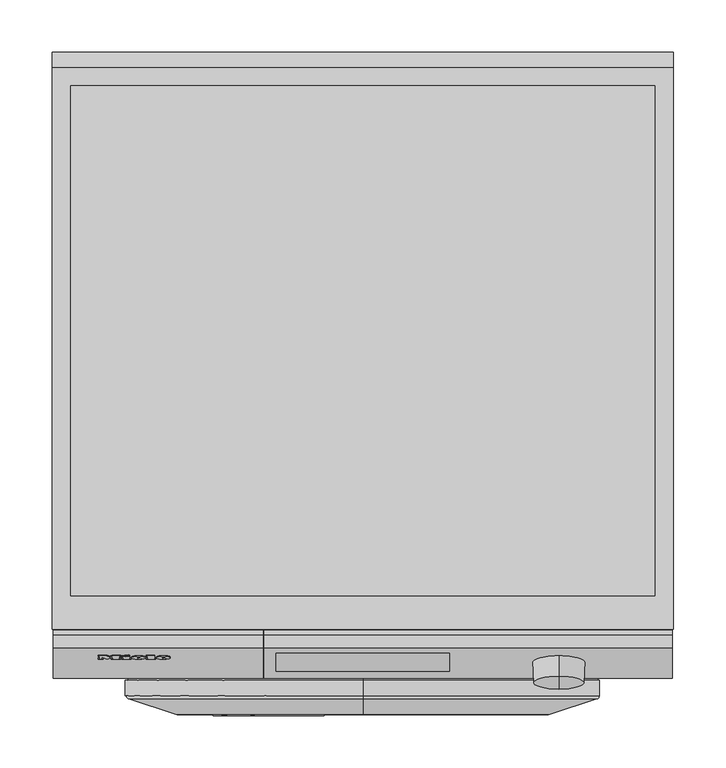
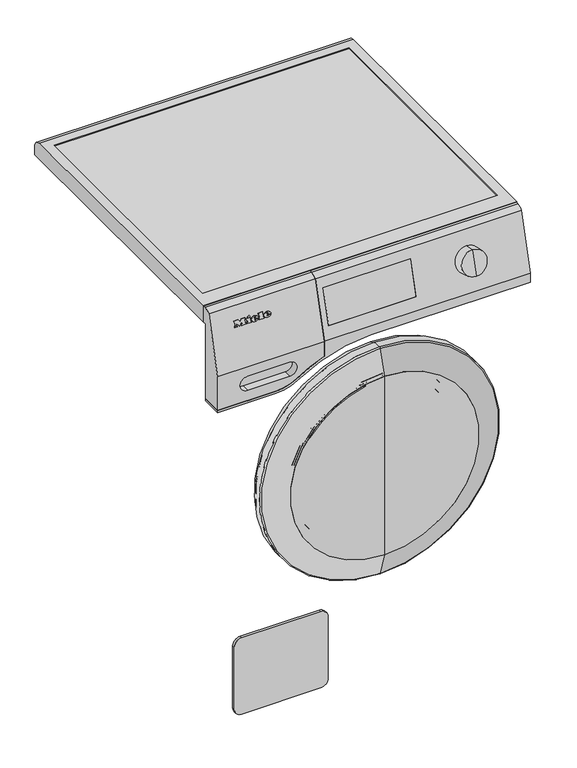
"""IFC4 building model written with IfcOpenShell, lengths in millimetres: proxy geometry, 12901940_F_WCA132WCS_LW : 11CA1321_F_12901940_WCA132WCS_LW."""

from ifc_helpers import new_model, si_unit, point, frame, frame_2d, origin, place, context, project, spatial, polyline, circle_curve, ellipse_curve, trimmed, segment, composite_curve, outline, extrude, source, transform, mapped, element, save
from ifc_brep_helpers import plane_surface, cylinder_surface, revolved_surface, extruded_surface, advanced_brep


def specialty_equipment_56a88420(model_context):
    return source(origin(), model_context, "Body", "SolidModel", [
        extrude(outline(polyline([(0.0, 0.0), (0.0, -1.8582), (-7.9458, -1.8582), (-11.286, 2.4168), (-14.6148, -1.8582), (-21.5574, -1.8582), (-21.5574, 0.0), (-20.1096, 0.0), (-20.1096, 7.6266), (-21.5574, 7.6266), (-21.5574, 9.5418), (-12.4602, 9.5418), (-12.4602, 7.6266), (-13.8624, 7.6266), (-13.8624, 2.6015777), (-8.7438, 9.5418), (-3.648, 2.7988753), (-3.648, 7.6266), (-5.016, 7.6266), (-5.016, 9.5418), (0.0, 9.5418), (0.0, 7.6266), (-1.3794, 7.6266), (-1.3794, 0.0), (0.0, 0.0)])), frame((-254.0, -578.2806922, 817.2814843), z_axis=(0.0, -0.9659258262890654, 0.2588190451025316), x_axis=(-1.0, 0.0, 0.0)), (0.0, 0.0, 1.0), 1.0),
        extrude(outline(polyline([(0.0, 0.0), (-0.0155448, -4.2740444), (-2.0506341, -4.2637237), (-2.0399312, 0.0), (0.0, 0.0)])), frame((-228.464, -577.9348294, 818.5722618), z_axis=(0.0, -0.9659258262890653, 0.2588190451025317), x_axis=(-0.4247202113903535, 0.23431526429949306, 0.8744764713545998)), (0.0, 0.0, 1.0), 1.0),
        extrude(outline(polyline([(-0.7030818, 3.4401063), (-3.9616202, -3.5057256), (-10.0405132, -0.6538993), (-10.6021632, -1.8511006), (-12.336041, -1.0376764), (-8.5158526, 7.1053568), (-6.7819748, 6.2919326), (-7.3581502, 5.0637692), (-3.1266627, 3.0786269), (-2.5504873, 4.3067903), (-0.7030818, 3.4401063)])), frame((-228.464, -577.9348294, 818.5722618), z_axis=(0.0, -0.9659258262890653, 0.2588190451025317), x_axis=(-0.4247202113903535, 0.23431526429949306, 0.8744764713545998)), (0.0, 0.0, 1.0), 1.0),
        extrude(outline(polyline([(0.0, 0.0), (0.0, -1.8582), (-7.8432, -1.8582), (-7.8432, 7.6266), (-9.2454, 7.6266), (-9.2454, 9.5418), (0.0, 9.5418), (0.0, 7.6266), (-1.368, 7.6266), (-1.368, 0.0), (0.0, 0.0)])), frame((-207.7388, -578.2806922, 817.2814843), z_axis=(0.0, -0.9659258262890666, 0.2588190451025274), x_axis=(-1.0, 0.0, 0.0)), (0.0, 0.0, 1.0), 1.0),
        advanced_brep(
        [(-216.0038, -581.029736, 810.8856165), (-216.0038, -580.7317318, 811.9977835), (-208.3772, -580.7317318, 811.9977835), (-221.6468, -580.7317318, 811.9977835), (-218.5118, -581.7290133, 808.2758781), (-208.571, -581.029736, 810.8856165), (-212.0138, -581.029736, 810.8856165), (-214.727, -581.3601962, 809.6523224), (-216.0038, -580.354063, 813.4072624), (-216.0038, -580.0324545, 814.6075219), (-214.0544, -580.0324545, 814.6075219), (-214.0544, -580.354063, 813.4072624), (-216.0038, -580.0638102, 810.6267974), (-214.727, -580.3942704, 809.3935033), (-212.0138, -580.0638102, 810.6267974), (-208.571, -580.0638102, 810.6267974), (-218.5118, -580.7630875, 808.017059), (-221.6468, -579.765806, 811.7389644), (-208.3772, -579.765806, 811.7389644), (-216.0038, -579.765806, 811.7389644), (-216.0038, -579.3881372, 813.1484434), (-214.0544, -579.3881372, 813.1484434), (-214.0544, -579.0665287, 814.3487028), (-216.0038, -579.0665287, 814.3487028)],
        [
            (0, 1),
            (1, 2),
            (2, 3, ellipse_curve(frame((-215.012, -580.7317318, 811.9977835), z_axis=(0.0, -0.9659258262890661, 0.2588190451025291), x_axis=(-1.0, 0.0, 0.0)), 6.6348, 5.4834)),
            (3, 4, circle_curve(frame((-217.2349378, -580.6314135, 812.3721763), z_axis=(0.0, -0.9659258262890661, 0.2588190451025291), x_axis=(0.0, -0.2588190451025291, -0.9659258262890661)), 4.4288556)),
            (4, 5, circle_curve(frame((-215.1448192, -579.8524717, 815.2792267), z_axis=(0.0, -0.9659258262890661, 0.2588190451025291), x_axis=(0.0, -0.2588190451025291, -0.9659258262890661)), 7.9940516)),
            (5, 6),
            (6, 7, circle_curve(frame((-214.1697412, -580.7553361, 811.909691), z_axis=(0.0, 0.9659258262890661, -0.2588190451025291), x_axis=(0.0, -0.2588190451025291, -0.9659258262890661)), 2.4025208)),
            (7, 0, circle_curve(frame((-214.727, -581.029736, 810.8856165), z_axis=(0.0, 0.9659258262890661, -0.2588190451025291), x_axis=(0.0, -0.2588190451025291, -0.9659258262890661)), 1.2768)),
            (8, 9),
            (9, 10, circle_curve(frame((-215.0291, -580.0324545, 814.6075219), z_axis=(0.0, 0.9659258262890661, -0.2588190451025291), x_axis=(0.0, -0.2588190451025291, -0.9659258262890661)), 0.9747)),
            (10, 11),
            (11, 8),
            (12, 13, circle_curve(frame((-214.727, -580.0638102, 810.6267974), z_axis=(0.0, -0.9659258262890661, 0.2588190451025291), x_axis=(0.0, -0.2588190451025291, -0.9659258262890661)), 1.2768)),
            (13, 14, circle_curve(frame((-214.1697412, -579.7894103, 811.650872), z_axis=(0.0, -0.9659258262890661, 0.2588190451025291), x_axis=(0.0, -0.2588190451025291, -0.9659258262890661)), 2.4025208)),
            (14, 15),
            (15, 16, circle_curve(frame((-215.1448192, -578.8865459, 815.0204076), z_axis=(0.0, 0.9659258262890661, -0.2588190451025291), x_axis=(0.0, -0.2588190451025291, -0.9659258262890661)), 7.9940516)),
            (16, 17, circle_curve(frame((-217.2349378, -579.6654877, 812.1133573), z_axis=(0.0, 0.9659258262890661, -0.2588190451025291), x_axis=(0.0, -0.2588190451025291, -0.9659258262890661)), 4.4288556)),
            (17, 18, ellipse_curve(frame((-215.012, -579.765806, 811.7389644), z_axis=(0.0, 0.9659258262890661, -0.2588190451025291), x_axis=(-1.0, 0.0, 0.0)), 6.6348, 5.4834)),
            (18, 19),
            (19, 12),
            (20, 21),
            (21, 22),
            (22, 23, circle_curve(frame((-215.0291, -579.0665287, 814.3487028), z_axis=(0.0, -0.9659258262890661, 0.2588190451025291), x_axis=(0.0, -0.2588190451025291, -0.9659258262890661)), 0.9747)),
            (23, 20),
            (0, 12),
            (19, 1),
            (18, 2),
            (5, 15),
            (14, 6),
            (17, 3),
            (13, 7),
            (16, 4),
            (8, 20),
            (23, 9),
            (22, 10),
            (21, 11),
        ],
        [
            plane_surface(frame((-216.0038, -580.7317318, 811.9977835), z_axis=(0.0, -0.9659258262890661, 0.2588190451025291), x_axis=(0.0, 0.2588190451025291, 0.9659258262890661))),
            plane_surface(frame((-216.0038, -579.765806, 811.7389644), z_axis=(0.0, 0.9659258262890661, -0.2588190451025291), x_axis=(0.0, -0.2588190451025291, -0.9659258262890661))),
            plane_surface(frame((-216.0038, -581.029736, 810.8856165), z_axis=(1.0, 0.0, 0.0), x_axis=(0.0, 0.9659258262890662, -0.25881904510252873))),
            plane_surface(frame((-216.0038, -580.7317318, 811.9977835), z_axis=(0.0, -0.25881904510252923, -0.9659258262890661), x_axis=(0.0, 0.9659258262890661, -0.25881904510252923))),
            plane_surface(frame((-208.571, -581.029736, 810.8856165), z_axis=(0.0, 0.25881904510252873, 0.9659258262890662), x_axis=(0.0, 0.9659258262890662, -0.25881904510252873))),
            extruded_surface(trimmed(ellipse_curve(frame((-215.012, -578.7998801, 811.4801454), z_axis=(0.0, -0.9659258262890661, 0.2588190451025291), x_axis=(-1.0, 0.0, 0.0)), 6.6348, 5.4834), [point((-208.3772, -578.7998801, 811.4801454))], [point((-221.6468, -578.7998801, 811.4801454))], True, "CARTESIAN"), (0.0, -0.965925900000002, 0.2588190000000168), 1.0000000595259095),
            revolved_surface(polyline([(-214.1697412, -580.4112283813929, 809.3302150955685), (-214.1697412, -581.3771542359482, 809.589034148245)]), (-214.1697412, -579.7894103, 811.650872), (0.0, 0.9659258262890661, -0.2588190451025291)),
            revolved_surface(polyline([(-214.727, -580.3942703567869, 809.393503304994), (-214.727, -581.3601962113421, 809.6523223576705)]), (-214.727, -580.0638102, 810.6267974), (0.0, 0.9659258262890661, -0.2588190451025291)),
            cylinder_surface(frame((-217.2349378, -579.6654877, 812.1133573), z_axis=(0.0, -0.9659258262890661, 0.2588190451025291), x_axis=(0.0, -0.2588190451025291, -0.9659258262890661)), 4.4288556),
            cylinder_surface(frame((-215.1448192, -578.8865459, 815.0204076), z_axis=(0.0, -0.9659258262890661, 0.2588190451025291), x_axis=(0.0, -0.2588190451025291, -0.9659258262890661)), 7.9940516),
            plane_surface(frame((-216.0038, -580.354063, 813.4072624), z_axis=(1.0, 0.0, 0.0), x_axis=(0.0, 0.9659258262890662, -0.25881904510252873))),
            revolved_surface(polyline([(-215.0291, -579.3187996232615, 813.407214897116), (-215.0291, -580.2847254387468, 813.6660339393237)]), (-215.0291, -579.0665287, 814.3487028), (0.0, 0.9659258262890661, -0.2588190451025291)),
            plane_surface(frame((-214.0544, -580.0324545, 814.6075219), z_axis=(-1.0, 0.0, 0.0), x_axis=(0.0, 0.9659258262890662, -0.25881904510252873))),
            plane_surface(frame((-214.0544, -580.354063, 813.4072624), z_axis=(0.0, 0.25881904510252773, 0.9659258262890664), x_axis=(0.0, 0.9659258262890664, -0.25881904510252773))),
        ],
        [
            (0, [[1, 2, 3, 4, 5, 6, 7, 8], [9, 10, 11, 12]]),
            (1, [[13, 14, 15, 16, 17, 18, 19, 20], [21, 22, 23, 24]]),
            (2, [[-1, 25, -20, 26]]),
            (3, [[-2, -26, -19, 27]]),
            (4, [[-6, 28, -15, 29]]),
            (5, [[-3, -27, -18, 30]]),
            (6, [[-7, -29, -14, 31]]),
            (7, [[-8, -31, -13, -25]]),
            (8, [[-4, -30, -17, 32]]),
            (9, [[-5, -32, -16, -28]]),
            (10, [[-9, 33, -24, 34]]),
            (11, [[-10, -34, -23, 35]]),
            (12, [[-11, -35, -22, 36]]),
            (13, [[-12, -36, -21, -33]]),
        ],
    ),
        advanced_brep(
        [(-192.212, -581.029736, 810.8856165), (-192.212, -580.7317318, 811.9977835), (-184.5854, -580.7317318, 811.9977835), (-197.855, -580.7317318, 811.9977835), (-194.72, -581.7290133, 808.2758781), (-184.7792, -581.029736, 810.8856165), (-188.222, -581.029736, 810.8856165), (-190.9352, -581.3601962, 809.6523224), (-192.212, -580.354063, 813.4072624), (-192.212, -580.0324545, 814.6075219), (-190.2626, -580.0324545, 814.6075219), (-190.2626, -580.354063, 813.4072624), (-192.212, -580.0638102, 810.6267974), (-190.9352, -580.3942704, 809.3935033), (-188.222, -580.0638102, 810.6267974), (-184.7792, -580.0638102, 810.6267974), (-194.72, -580.7630875, 808.017059), (-197.855, -579.765806, 811.7389644), (-184.5854, -579.765806, 811.7389644), (-192.212, -579.765806, 811.7389644), (-192.212, -579.3881372, 813.1484434), (-190.2626, -579.3881372, 813.1484434), (-190.2626, -579.0665287, 814.3487028), (-192.212, -579.0665287, 814.3487028)],
        [
            (0, 1),
            (1, 2),
            (2, 3, ellipse_curve(frame((-191.2202, -580.7317318, 811.9977835), z_axis=(0.0, -0.965925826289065, 0.25881904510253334), x_axis=(-1.0, 0.0, 0.0)), 6.6348, 5.4834)),
            (3, 4, circle_curve(frame((-193.4431378, -580.6314135, 812.3721763), z_axis=(0.0, -0.9659258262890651, 0.25881904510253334), x_axis=(0.0, -0.2588190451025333, -0.9659258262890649)), 4.4288556)),
            (4, 5, circle_curve(frame((-191.3530192, -579.8524717, 815.2792267), z_axis=(0.0, -0.9659258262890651, 0.25881904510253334), x_axis=(0.0, -0.2588190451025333, -0.9659258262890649)), 7.9940516)),
            (5, 6),
            (6, 7, circle_curve(frame((-190.3779412, -580.7553361, 811.909691), z_axis=(0.0, 0.9659258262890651, -0.25881904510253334), x_axis=(0.0, -0.2588190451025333, -0.9659258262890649)), 2.4025208)),
            (7, 0, circle_curve(frame((-190.9352, -581.029736, 810.8856165), z_axis=(0.0, 0.9659258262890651, -0.25881904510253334), x_axis=(0.0, -0.2588190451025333, -0.9659258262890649)), 1.2768)),
            (8, 9),
            (9, 10, circle_curve(frame((-191.2373, -580.0324545, 814.6075219), z_axis=(0.0, 0.9659258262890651, -0.25881904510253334), x_axis=(0.0, -0.2588190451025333, -0.9659258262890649)), 0.9747)),
            (10, 11),
            (11, 8),
            (12, 13, circle_curve(frame((-190.9352, -580.0638102, 810.6267974), z_axis=(0.0, -0.9659258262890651, 0.25881904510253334), x_axis=(0.0, -0.2588190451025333, -0.9659258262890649)), 1.2768)),
            (13, 14, circle_curve(frame((-190.3779412, -579.7894103, 811.650872), z_axis=(0.0, -0.9659258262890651, 0.25881904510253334), x_axis=(0.0, -0.2588190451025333, -0.9659258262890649)), 2.4025208)),
            (14, 15),
            (15, 16, circle_curve(frame((-191.3530192, -578.8865459, 815.0204076), z_axis=(0.0, 0.9659258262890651, -0.25881904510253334), x_axis=(0.0, -0.2588190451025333, -0.9659258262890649)), 7.9940516)),
            (16, 17, circle_curve(frame((-193.4431378, -579.6654877, 812.1133573), z_axis=(0.0, 0.9659258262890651, -0.25881904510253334), x_axis=(0.0, -0.2588190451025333, -0.9659258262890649)), 4.4288556)),
            (17, 18, ellipse_curve(frame((-191.2202, -579.765806, 811.7389644), z_axis=(0.0, 0.965925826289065, -0.25881904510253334), x_axis=(-1.0, 0.0, 0.0)), 6.6348, 5.4834)),
            (18, 19),
            (19, 12),
            (20, 21),
            (21, 22),
            (22, 23, circle_curve(frame((-191.2373, -579.0665287, 814.3487028), z_axis=(0.0, -0.9659258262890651, 0.25881904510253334), x_axis=(0.0, -0.2588190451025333, -0.9659258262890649)), 0.9747)),
            (23, 20),
            (0, 12),
            (19, 1),
            (18, 2),
            (5, 15),
            (14, 6),
            (17, 3),
            (13, 7),
            (16, 4),
            (8, 20),
            (23, 9),
            (22, 10),
            (21, 11),
        ],
        [
            plane_surface(frame((-192.212, -580.7317318, 811.9977835), z_axis=(0.0, -0.965925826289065, 0.25881904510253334), x_axis=(0.0, 0.25881904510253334, 0.965925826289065))),
            plane_surface(frame((-192.212, -579.765806, 811.7389644), z_axis=(0.0, 0.965925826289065, -0.25881904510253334), x_axis=(0.0, -0.25881904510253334, -0.965925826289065))),
            plane_surface(frame((-192.212, -581.029736, 810.8856165), z_axis=(1.0, 0.0, 0.0), x_axis=(0.0, 0.9659258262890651, -0.2588190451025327))),
            plane_surface(frame((-192.212, -580.7317318, 811.9977835), z_axis=(0.0, -0.25881904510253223, -0.9659258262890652), x_axis=(0.0, 0.9659258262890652, -0.25881904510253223))),
            plane_surface(frame((-184.7792, -581.029736, 810.8856165), z_axis=(0.0, 0.2588190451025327, 0.9659258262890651), x_axis=(0.0, 0.9659258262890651, -0.2588190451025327))),
            extruded_surface(trimmed(ellipse_curve(frame((-191.2202, -578.7998801, 811.4801454), z_axis=(0.0, -0.965925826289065, 0.25881904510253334), x_axis=(-1.0, 0.0, 0.0)), 6.6348, 5.4834), [point((-184.5854, -578.7998801, 811.4801454))], [point((-197.855, -578.7998801, 811.4801454))], True, "CARTESIAN"), (0.0, -0.965925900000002, 0.2588190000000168), 1.0000000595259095),
            revolved_surface(polyline([(-190.3779412, -580.4112283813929, 809.3302150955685), (-190.3779412, -581.3771542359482, 809.589034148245)]), (-190.3779412, -579.7894103, 811.650872), (0.0, 0.9659258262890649, -0.2588190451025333)),
            revolved_surface(polyline([(-190.9352, -580.3942703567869, 809.393503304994), (-190.9352, -581.3601962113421, 809.6523223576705)]), (-190.9352, -580.0638102, 810.6267974), (0.0, 0.9659258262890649, -0.2588190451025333)),
            cylinder_surface(frame((-193.4431378, -579.6654877, 812.1133573), z_axis=(0.0, -0.9659258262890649, 0.2588190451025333), x_axis=(0.0, -0.2588190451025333, -0.9659258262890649)), 4.4288556),
            cylinder_surface(frame((-191.3530192, -578.8865459, 815.0204076), z_axis=(0.0, -0.9659258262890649, 0.2588190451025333), x_axis=(0.0, -0.2588190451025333, -0.9659258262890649)), 7.9940516),
            plane_surface(frame((-192.212, -580.354063, 813.4072624), z_axis=(1.0, 0.0, 0.0), x_axis=(0.0, 0.9659258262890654, -0.25881904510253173))),
            revolved_surface(polyline([(-191.2373, -579.3187996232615, 813.407214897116), (-191.2373, -580.2847254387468, 813.6660339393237)]), (-191.2373, -579.0665287, 814.3487028), (0.0, 0.9659258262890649, -0.2588190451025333)),
            plane_surface(frame((-190.2626, -580.0324545, 814.6075219), z_axis=(-1.0, 0.0, 0.0), x_axis=(0.0, 0.9659258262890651, -0.2588190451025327))),
            plane_surface(frame((-190.2626, -580.354063, 813.4072624), z_axis=(0.0, 0.2588190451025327, 0.9659258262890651), x_axis=(0.0, 0.9659258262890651, -0.2588190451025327))),
        ],
        [
            (0, [[1, 2, 3, 4, 5, 6, 7, 8], [9, 10, 11, 12]]),
            (1, [[13, 14, 15, 16, 17, 18, 19, 20], [21, 22, 23, 24]]),
            (2, [[-1, 25, -20, 26]]),
            (3, [[-2, -26, -19, 27]]),
            (4, [[-6, 28, -15, 29]]),
            (5, [[-3, -27, -18, 30]]),
            (6, [[-7, -29, -14, 31]]),
            (7, [[-8, -31, -13, -25]]),
            (8, [[-4, -30, -17, 32]]),
            (9, [[-5, -32, -16, -28]]),
            (10, [[-9, 33, -24, 34]]),
            (11, [[-10, -34, -23, 35]]),
            (12, [[-11, -35, -22, 36]]),
            (13, [[-12, -36, -21, -33]]),
        ],
    ),
        extrude(outline(composite_curve([segment(trimmed(circle_curve(frame_2d((475.0, 0.0)), 179.0077488), [point((650.0572384, -37.3996979))], [point((581.8669772, -143.6078804))], False, "CARTESIAN"), True, "CONTINUOUS"), segment(polyline([(581.8669772, -143.6078804), (580.6729844, -142.0033925)]), True, "CONTINUOUS"), segment(trimmed(circle_curve(frame_2d((475.0, 0.0)), 177.0077488), [point((580.6729844, -142.0033925))], [point((648.1013763, -36.9818423))], True, "CARTESIAN"), True, "CONTINUOUS"), segment(polyline([(648.1013763, -36.9818423), (650.0572384, -37.3996979)]), True, "CONTINUOUS")], self_intersect=False)), frame((0.0, -636.0, 0.0), z_axis=(0.0, 1.0, 0.0), x_axis=(0.0, 0.0, 1.0)), (0.0, 0.0, 1.0), 1.0),
        advanced_brep(
        [(0.0, -635.0, 296.0), (0.0, -635.0, 654.0), (0.0, -630.9005671, 650.4364173), (0.0, -630.9005671, 299.5635827), (0.0, -635.0, 475.0), (0.0, -589.0, 326.0), (0.0, -589.0, 624.0), (0.0, -589.0, 475.0), (0.0, -592.0, 326.0), (0.0, -592.0, 624.0), (0.0, -592.0, 313.0), (0.0, -592.0, 637.0), (0.0, -610.8709778, 313.0), (0.0, -610.8709778, 637.0), (0.0, -628.93239, 297.2994539), (0.0, -628.93239, 652.7005461)],
        [
            (0, 1, circle_curve(frame((0.0, -635.0, 475.0), z_axis=(0.0, 1.0, 0.0), x_axis=(0.0, 0.0, 1.0)), 179.0)),
            (1, 2),
            (2, 3, circle_curve(frame((0.0, -630.9005671, 475.0), z_axis=(0.0, -1.0, 0.0), x_axis=(0.0, 0.0, 1.0)), 175.4364173)),
            (3, 0),
            (1, 0, circle_curve(frame((0.0, -635.0, 475.0), z_axis=(0.0, 1.0, 0.0), x_axis=(0.0, 0.0, 1.0)), 179.0)),
            (3, 2, circle_curve(frame((0.0, -630.9005671, 475.0), z_axis=(0.0, -1.0, 0.0), x_axis=(0.0, 0.0, 1.0)), 175.4364173)),
            (4, 1),
            (0, 4),
            (5, 6, circle_curve(frame((0.0, -589.0, 475.0), z_axis=(0.0, 1.0, 0.0), x_axis=(0.0, 0.0, 1.0)), 149.0)),
            (6, 7),
            (7, 5),
            (6, 5, circle_curve(frame((0.0, -589.0, 475.0), z_axis=(0.0, 1.0, 0.0), x_axis=(0.0, 0.0, 1.0)), 149.0)),
            (8, 9, circle_curve(frame((0.0, -592.0, 475.0), z_axis=(0.0, 1.0, 0.0), x_axis=(0.0, 0.0, 1.0)), 149.0)),
            (9, 6),
            (5, 8),
            (9, 8, circle_curve(frame((0.0, -592.0, 475.0), z_axis=(0.0, 1.0, 0.0), x_axis=(0.0, 0.0, 1.0)), 149.0)),
            (10, 11, circle_curve(frame((0.0, -592.0, 475.0), z_axis=(0.0, 1.0, 0.0), x_axis=(0.0, 0.0, 1.0)), 162.0)),
            (11, 9),
            (8, 10),
            (11, 10, circle_curve(frame((0.0, -592.0, 475.0), z_axis=(0.0, 1.0, 0.0), x_axis=(0.0, 0.0, 1.0)), 162.0)),
            (12, 13, circle_curve(frame((0.0, -610.8709778, 475.0), z_axis=(0.0, 1.0, 0.0), x_axis=(0.0, 0.0, 1.0)), 162.0)),
            (13, 11),
            (10, 12),
            (13, 12, circle_curve(frame((0.0, -610.8709778, 475.0), z_axis=(0.0, 1.0, 0.0), x_axis=(0.0, 0.0, 1.0)), 162.0)),
            (14, 15, circle_curve(frame((0.0, -628.93239, 475.0), z_axis=(0.0, 1.0, 0.0), x_axis=(0.0, 0.0, 1.0)), 177.7005461)),
            (15, 13),
            (12, 14),
            (15, 14, circle_curve(frame((0.0, -628.93239, 475.0), z_axis=(0.0, 1.0, 0.0), x_axis=(0.0, 0.0, 1.0)), 177.7005461)),
            (2, 15),
            (14, 3),
        ],
        [
            revolved_surface(polyline([(0.0, -630.9005671, 650.4364173), (0.0, -635.0, 654.0)]), (0.0, -2342.7556811, 475.0), (0.0, -1.0, 0.0)),
            plane_surface(frame((0.0, -635.0, 475.0), z_axis=(0.0, -1.0, 0.0), x_axis=(0.0, 0.0, 1.0))),
            plane_surface(frame((0.0, -589.0, 475.0), z_axis=(0.0, 1.0, 0.0), x_axis=(0.0, 0.0, 1.0))),
            cylinder_surface(frame((0.0, -2342.7556811, 475.0), z_axis=(0.0, -1.0, 0.0), x_axis=(0.0, 0.0, 1.0)), 149.0),
            plane_surface(frame((0.0, -592.0, 475.0), z_axis=(0.0, 1.0, 0.0), x_axis=(0.0, 0.0, 1.0))),
            cylinder_surface(frame((0.0, -2342.7556811, 475.0), z_axis=(0.0, -1.0, 0.0), x_axis=(0.0, 0.0, 1.0)), 162.0),
            revolved_surface(polyline([(0.0, -610.8709778, 637.0), (0.0, -628.93239, 652.7005461)]), (0.0, -2342.7556811, 475.0), (0.0, -1.0, 0.0)),
            revolved_surface(polyline([(0.0, -628.93239, 652.7005461), (0.0, -630.9005671, 650.4364173)]), (0.0, -2342.7556811, 475.0), (0.0, -1.0, 0.0)),
        ],
        [
            (0, [[1, 2, 3, 4]]),
            (0, [[5, -4, 6, -2]]),
            (1, [[7, -1, 8]]),
            (1, [[-8, -5, -7]]),
            (2, [[9, 10, 11]]),
            (2, [[12, -11, -10]]),
            (3, [[13, 14, -9, 15]]),
            (3, [[16, -15, -12, -14]]),
            (4, [[17, 18, -13, 19]]),
            (4, [[20, -19, -16, -18]]),
            (5, [[21, 22, -17, 23]]),
            (5, [[24, -23, -20, -22]]),
            (6, [[25, 26, -21, 27]]),
            (6, [[28, -27, -24, -26]]),
            (7, [[-3, 29, -25, 30]]),
            (7, [[-6, -30, -28, -29]]),
        ],
    ),
        advanced_brep(
        [(0.0, -589.0, 254.0), (0.0, -589.0, 696.0), (0.0, -589.0, 624.0), (0.0, -589.0, 326.0), (0.0, -602.0, 248.0), (0.0, -602.0, 702.0), (0.0, -602.0, 313.0), (0.0, -602.0, 637.0), (0.0, -592.0, 313.0), (0.0, -592.0, 637.0), (0.0, -592.0, 326.0), (0.0, -592.0, 624.0)],
        [
            (0, 1, circle_curve(frame((0.0, -589.0, 475.0), z_axis=(0.0, 1.0, 0.0), x_axis=(0.0, 0.0, 1.0)), 221.0)),
            (1, 2),
            (2, 3, circle_curve(frame((0.0, -589.0, 475.0), z_axis=(0.0, -1.0, 0.0), x_axis=(0.0, 0.0, 1.0)), 149.0)),
            (3, 0),
            (1, 0, circle_curve(frame((0.0, -589.0, 475.0), z_axis=(0.0, 1.0, 0.0), x_axis=(0.0, 0.0, 1.0)), 221.0)),
            (3, 2, circle_curve(frame((0.0, -589.0, 475.0), z_axis=(0.0, -1.0, 0.0), x_axis=(0.0, 0.0, 1.0)), 149.0)),
            (4, 5, circle_curve(frame((0.0, -602.0, 475.0), z_axis=(0.0, 1.0, 0.0), x_axis=(0.0, 0.0, 1.0)), 227.0)),
            (5, 1),
            (0, 4),
            (5, 4, circle_curve(frame((0.0, -602.0, 475.0), z_axis=(0.0, 1.0, 0.0), x_axis=(0.0, 0.0, 1.0)), 227.0)),
            (6, 7, circle_curve(frame((0.0, -602.0, 475.0), z_axis=(0.0, 1.0, 0.0), x_axis=(0.0, 0.0, 1.0)), 162.0)),
            (7, 5),
            (4, 6),
            (7, 6, circle_curve(frame((0.0, -602.0, 475.0), z_axis=(0.0, 1.0, 0.0), x_axis=(0.0, 0.0, 1.0)), 162.0)),
            (8, 9, circle_curve(frame((0.0, -592.0, 475.0), z_axis=(0.0, 1.0, 0.0), x_axis=(0.0, 0.0, 1.0)), 162.0)),
            (9, 7),
            (6, 8),
            (9, 8, circle_curve(frame((0.0, -592.0, 475.0), z_axis=(0.0, 1.0, 0.0), x_axis=(0.0, 0.0, 1.0)), 162.0)),
            (10, 11, circle_curve(frame((0.0, -592.0, 475.0), z_axis=(0.0, 1.0, 0.0), x_axis=(0.0, 0.0, 1.0)), 149.0)),
            (11, 9),
            (8, 10),
            (11, 10, circle_curve(frame((0.0, -592.0, 475.0), z_axis=(0.0, 1.0, 0.0), x_axis=(0.0, 0.0, 1.0)), 149.0)),
            (2, 11),
            (10, 3),
        ],
        [
            plane_surface(frame((0.0, -589.0, 475.0), z_axis=(0.0, 1.0, 0.0), x_axis=(0.0, 0.0, 1.0))),
            revolved_surface(polyline([(0.0, -589.0, 696.0), (0.0, -602.0, 702.0)]), (0.0, -2342.7556811, 475.0), (0.0, -1.0, 0.0)),
            plane_surface(frame((0.0, -602.0, 475.0), z_axis=(0.0, -1.0, 0.0), x_axis=(0.0, 0.0, 1.0))),
            revolved_surface(polyline([(0.0, -602.0, 637.0), (0.0, -592.0, 637.0)]), (0.0, -2342.7556811, 475.0), (0.0, -1.0, 0.0)),
            plane_surface(frame((0.0, -592.0, 475.0), z_axis=(0.0, -1.0, 0.0), x_axis=(0.0, 0.0, 1.0))),
            revolved_surface(polyline([(0.0, -592.0, 624.0), (0.0, -589.0, 624.0)]), (0.0, -2342.7556811, 475.0), (0.0, -1.0, 0.0)),
        ],
        [
            (0, [[1, 2, 3, 4]]),
            (0, [[5, -4, 6, -2]]),
            (1, [[7, 8, -1, 9]]),
            (1, [[10, -9, -5, -8]]),
            (2, [[11, 12, -7, 13]]),
            (2, [[14, -13, -10, -12]]),
            (3, [[15, 16, -11, 17]]),
            (3, [[18, -17, -14, -16]]),
            (4, [[19, 20, -15, 21]]),
            (4, [[22, -21, -18, -20]]),
            (5, [[-3, 23, -19, 24]]),
            (5, [[-6, -24, -22, -23]]),
        ],
    ),
        advanced_brep(
        [(0.0, -628.93239, 297.2994539), (0.0, -628.93239, 652.7005461), (0.0, -626.9642129, 654.9646748), (0.0, -626.9642129, 295.0353252), (0.0, -610.8709778, 313.0), (0.0, -610.8709778, 637.0), (0.0, -602.0, 313.0), (0.0, -602.0, 637.0), (0.0, -609.7493238, 640.0), (0.0, -609.7493238, 310.0), (0.0, -602.0, 310.0), (0.0, -602.0, 640.0)],
        [
            (0, 1, circle_curve(frame((0.0, -628.93239, 475.0), z_axis=(0.0, 1.0, 0.0), x_axis=(0.0, 0.0, 1.0)), 177.7005461)),
            (1, 2),
            (2, 3, circle_curve(frame((0.0, -626.9642129, 475.0), z_axis=(0.0, -1.0, 0.0), x_axis=(0.0, 0.0, 1.0)), 179.9646748)),
            (3, 0),
            (1, 0, circle_curve(frame((0.0, -628.93239, 475.0), z_axis=(0.0, 1.0, 0.0), x_axis=(0.0, 0.0, 1.0)), 177.7005461)),
            (3, 2, circle_curve(frame((0.0, -626.9642129, 475.0), z_axis=(0.0, -1.0, 0.0), x_axis=(0.0, 0.0, 1.0)), 179.9646748)),
            (4, 5, circle_curve(frame((0.0, -610.8709778, 475.0), z_axis=(0.0, 1.0, 0.0), x_axis=(0.0, 0.0, 1.0)), 162.0)),
            (5, 1),
            (0, 4),
            (5, 4, circle_curve(frame((0.0, -610.8709778, 475.0), z_axis=(0.0, 1.0, 0.0), x_axis=(0.0, 0.0, 1.0)), 162.0)),
            (6, 7, circle_curve(frame((0.0, -602.0, 475.0), z_axis=(0.0, 1.0, 0.0), x_axis=(0.0, 0.0, 1.0)), 162.0)),
            (7, 5),
            (4, 6),
            (7, 6, circle_curve(frame((0.0, -602.0, 475.0), z_axis=(0.0, 1.0, 0.0), x_axis=(0.0, 0.0, 1.0)), 162.0)),
            (2, 8),
            (8, 9, circle_curve(frame((0.0, -609.7493238, 475.0), z_axis=(0.0, -1.0, 0.0), x_axis=(0.0, 0.0, 1.0)), 165.0)),
            (9, 3),
            (9, 8, circle_curve(frame((0.0, -609.7493238, 475.0), z_axis=(0.0, -1.0, 0.0), x_axis=(0.0, 0.0, 1.0)), 165.0)),
            (10, 11, circle_curve(frame((0.0, -602.0, 475.0), z_axis=(0.0, 1.0, 0.0), x_axis=(0.0, 0.0, 1.0)), 165.0)),
            (11, 7),
            (6, 10),
            (11, 10, circle_curve(frame((0.0, -602.0, 475.0), z_axis=(0.0, 1.0, 0.0), x_axis=(0.0, 0.0, 1.0)), 165.0)),
            (8, 11),
            (10, 9),
        ],
        [
            revolved_surface(polyline([(0.0, -626.9642129, 654.9646748), (0.0, -628.93239, 652.7005461)]), (0.0, -2342.7556811, 475.0), (0.0, -1.0, 0.0)),
            revolved_surface(polyline([(0.0, -628.93239, 652.7005461), (0.0, -610.8709778, 637.0)]), (0.0, -2342.7556811, 475.0), (0.0, -1.0, 0.0)),
            revolved_surface(polyline([(0.0, -610.8709778, 637.0), (0.0, -602.0, 637.0)]), (0.0, -2342.7556811, 475.0), (0.0, -1.0, 0.0)),
            revolved_surface(polyline([(0.0, -609.7493238, 640.0), (0.0, -626.9642129, 654.9646748)]), (0.0, -2342.7556811, 475.0), (0.0, -1.0, 0.0)),
            plane_surface(frame((0.0, -602.0, 475.0), z_axis=(0.0, 1.0, 0.0), x_axis=(0.0, 0.0, 1.0))),
            cylinder_surface(frame((0.0, -2342.7556811, 475.0), z_axis=(0.0, -1.0, 0.0), x_axis=(0.0, 0.0, 1.0)), 165.0),
        ],
        [
            (0, [[1, 2, 3, 4]]),
            (0, [[5, -4, 6, -2]]),
            (1, [[7, 8, -1, 9]]),
            (1, [[10, -9, -5, -8]]),
            (2, [[11, 12, -7, 13]]),
            (2, [[14, -13, -10, -12]]),
            (3, [[-3, 15, 16, 17]]),
            (3, [[-6, -17, 18, -15]]),
            (4, [[19, 20, -11, 21]]),
            (4, [[22, -21, -14, -20]]),
            (5, [[-16, 23, -19, 24]]),
            (5, [[-18, -24, -22, -23]]),
        ],
    ),
        advanced_brep(
        [(0.0, -616.8993073, 247.0), (0.0, -616.8993073, 703.0), (0.0, -602.0, 703.0), (0.0, -602.0, 247.0), (0.0, -619.7524768, 249.072949), (0.0, -619.7524768, 700.927051), (0.0, -635.0, 296.0), (0.0, -635.0, 654.0), (0.0, -630.9005671, 299.5635827), (0.0, -630.9005671, 650.4364173), (0.0, -626.9642129, 295.0353252), (0.0, -626.9642129, 654.9646748), (0.0, -609.7493238, 310.0), (0.0, -609.7493238, 640.0), (0.0, -602.0, 640.0), (0.0, -602.0, 310.0)],
        [
            (0, 1, circle_curve(frame((0.0, -616.8993073, 475.0), z_axis=(0.0, 1.0, 0.0), x_axis=(0.0, 0.0, 1.0)), 228.0)),
            (1, 2),
            (2, 3, circle_curve(frame((0.0, -602.0, 475.0), z_axis=(0.0, -1.0, 0.0), x_axis=(0.0, 0.0, 1.0)), 228.0)),
            (3, 0),
            (1, 0, circle_curve(frame((0.0, -616.8993073, 475.0), z_axis=(0.0, 1.0, 0.0), x_axis=(0.0, 0.0, 1.0)), 228.0)),
            (3, 2, circle_curve(frame((0.0, -602.0, 475.0), z_axis=(0.0, -1.0, 0.0), x_axis=(0.0, 0.0, 1.0)), 228.0)),
            (4, 5, circle_curve(frame((0.0, -619.7524768, 475.0), z_axis=(0.0, 1.0, 0.0), x_axis=(0.0, 0.0, 1.0)), 225.927051)),
            (5, 1, circle_curve(frame((0.0, -616.8993073, 700.0), z_axis=(-1.0, 0.0, 0.0), x_axis=(0.0, 1.0, 0.0)), 3.0)),
            (0, 4, circle_curve(frame((0.0, -616.8993073, 250.0), z_axis=(-1.0, 0.0, 0.0), x_axis=(0.0, 1.0, 0.0)), 3.0)),
            (5, 4, circle_curve(frame((0.0, -619.7524768, 475.0), z_axis=(0.0, 1.0, 0.0), x_axis=(0.0, 0.0, 1.0)), 225.927051)),
            (6, 7, circle_curve(frame((0.0, -635.0, 475.0), z_axis=(0.0, 1.0, 0.0), x_axis=(0.0, 0.0, 1.0)), 179.0)),
            (7, 5),
            (4, 6),
            (7, 6, circle_curve(frame((0.0, -635.0, 475.0), z_axis=(0.0, 1.0, 0.0), x_axis=(0.0, 0.0, 1.0)), 179.0)),
            (8, 9, circle_curve(frame((0.0, -630.9005671, 475.0), z_axis=(0.0, 1.0, 0.0), x_axis=(0.0, 0.0, 1.0)), 175.4364173)),
            (9, 7),
            (6, 8),
            (9, 8, circle_curve(frame((0.0, -630.9005671, 475.0), z_axis=(0.0, 1.0, 0.0), x_axis=(0.0, 0.0, 1.0)), 175.4364173)),
            (10, 11, circle_curve(frame((0.0, -626.9642129, 475.0), z_axis=(0.0, 1.0, 0.0), x_axis=(0.0, 0.0, 1.0)), 179.9646748)),
            (11, 9),
            (8, 10),
            (11, 10, circle_curve(frame((0.0, -626.9642129, 475.0), z_axis=(0.0, 1.0, 0.0), x_axis=(0.0, 0.0, 1.0)), 179.9646748)),
            (12, 13, circle_curve(frame((0.0, -609.7493238, 475.0), z_axis=(0.0, 1.0, 0.0), x_axis=(0.0, 0.0, 1.0)), 165.0)),
            (13, 11),
            (10, 12),
            (13, 12, circle_curve(frame((0.0, -609.7493238, 475.0), z_axis=(0.0, 1.0, 0.0), x_axis=(0.0, 0.0, 1.0)), 165.0)),
            (2, 14),
            (14, 15, circle_curve(frame((0.0, -602.0, 475.0), z_axis=(0.0, -1.0, 0.0), x_axis=(0.0, 0.0, 1.0)), 165.0)),
            (15, 3),
            (15, 14, circle_curve(frame((0.0, -602.0, 475.0), z_axis=(0.0, -1.0, 0.0), x_axis=(0.0, 0.0, 1.0)), 165.0)),
            (14, 13),
            (12, 15),
        ],
        [
            cylinder_surface(frame((0.0, -2342.7556811, 475.0), z_axis=(0.0, -1.0, 0.0), x_axis=(0.0, 0.0, 1.0)), 228.0),
            revolved_surface(trimmed(ellipse_curve(frame((0.0, -616.8993073, 700.0), z_axis=(1.0, 0.0, 0.0), x_axis=(0.0, 1.0, 0.0)), 3.0, 3.0), [point((0.0, -616.8993073, 703.0))], [point((0.0, -619.7524768, 700.927051))], True, "CARTESIAN"), (0.0, -2342.7556811, 475.0), (0.0, -1.0, 0.0)),
            revolved_surface(polyline([(0.0, -619.7524768, 700.927051), (0.0, -635.0, 654.0)]), (0.0, -2342.7556811, 475.0), (0.0, -1.0, 0.0)),
            revolved_surface(polyline([(0.0, -635.0, 654.0), (0.0, -630.9005671, 650.4364173)]), (0.0, -2342.7556811, 475.0), (0.0, -1.0, 0.0)),
            revolved_surface(polyline([(0.0, -630.9005671, 650.4364173), (0.0, -626.9642129, 654.9646748)]), (0.0, -2342.7556811, 475.0), (0.0, -1.0, 0.0)),
            revolved_surface(polyline([(0.0, -626.9642129, 654.9646748), (0.0, -609.7493238, 640.0)]), (0.0, -2342.7556811, 475.0), (0.0, -1.0, 0.0)),
            plane_surface(frame((0.0, -602.0, 475.0), z_axis=(0.0, 1.0, 0.0), x_axis=(0.0, 0.0, 1.0))),
            revolved_surface(polyline([(0.0, -609.7493238, 640.0), (0.0, -602.0, 640.0)]), (0.0, -2342.7556811, 475.0), (0.0, -1.0, 0.0)),
        ],
        [
            (0, [[1, 2, 3, 4]]),
            (0, [[5, -4, 6, -2]]),
            (1, [[7, 8, -1, 9]]),
            (1, [[10, -9, -5, -8]]),
            (2, [[11, 12, -7, 13]]),
            (2, [[14, -13, -10, -12]]),
            (3, [[15, 16, -11, 17]]),
            (3, [[18, -17, -14, -16]]),
            (4, [[19, 20, -15, 21]]),
            (4, [[22, -21, -18, -20]]),
            (5, [[23, 24, -19, 25]]),
            (5, [[26, -25, -22, -24]]),
            (6, [[-3, 27, 28, 29]]),
            (6, [[-6, -29, 30, -27]]),
            (7, [[-28, 31, -23, 32]]),
            (7, [[-30, -32, -26, -31]]),
        ],
    ),
        advanced_brep(
        [(188.0, -610.51771, 774.0406758), (188.0, -598.119323, 820.312086), (188.0, -578.5295239, 816.1481457), (188.0, -591.4704761, 767.8518543), (188.0, -604.3185165, 797.1763809), (188.0, -585.0, 792.0)],
        [
            (0, 1, circle_curve(frame((188.0, -604.3185165, 797.1763809), z_axis=(0.0, 0.9659258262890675, -0.2588190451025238), x_axis=(0.0, 0.2588190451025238, 0.9659258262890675)), 23.9518444)),
            (1, 2),
            (2, 3, circle_curve(frame((188.0, -585.0, 792.0), z_axis=(0.0, -0.9659258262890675, 0.2588190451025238), x_axis=(0.0, 0.2588190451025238, 0.9659258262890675)), 25.0)),
            (3, 0),
            (1, 0, circle_curve(frame((188.0, -604.3185165, 797.1763809), z_axis=(0.0, 0.9659258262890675, -0.2588190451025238), x_axis=(0.0, 0.2588190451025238, 0.9659258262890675)), 23.9518444)),
            (3, 2, circle_curve(frame((188.0, -585.0, 792.0), z_axis=(0.0, -0.9659258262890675, 0.2588190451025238), x_axis=(0.0, 0.2588190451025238, 0.9659258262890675)), 25.0)),
            (4, 1),
            (0, 4),
            (2, 5),
            (5, 3),
        ],
        [
            revolved_surface(polyline([(188.0, -578.5295239, 816.1481457), (188.0, -598.119323, 820.312086)]), (188.0, -553.6611319, 783.6027756), (0.0, -0.9659258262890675, 0.2588190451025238)),
            plane_surface(frame((188.0, -604.3185165, 797.1763809), z_axis=(0.0, -0.9659258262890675, 0.2588190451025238), x_axis=(0.0, 0.2588190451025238, 0.9659258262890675))),
            plane_surface(frame((188.0, -585.0, 792.0), z_axis=(0.0, 0.9659258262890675, -0.2588190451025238), x_axis=(0.0, 0.2588190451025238, 0.9659258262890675))),
        ],
        [
            (0, [[1, 2, 3, 4]]),
            (0, [[5, -4, 6, -2]]),
            (1, [[7, -1, 8]]),
            (1, [[-8, -5, -7]]),
            (2, [[-3, 9, 10]]),
            (2, [[-6, -10, -9]]),
        ],
    ),
        advanced_brep(
        [(280.0, -32.0, 848.0), (-280.0, -32.0, 848.0), (-280.0, -521.0, 848.0), (280.0, -521.0, 848.0), (280.0, -32.0, 850.0), (-280.0, -32.0, 850.0), (-280.0, -521.0, 850.0), (280.0, -521.0, 850.0), (298.0, -14.5, 850.0), (298.0, -553.0, 850.0), (298.0, -553.0, 818.0), (298.0, 0.0, 818.0), (298.0, 0.0, 835.5), (-298.0, -14.5, 850.0), (-298.0, 0.0, 835.5), (-298.0, 0.0, 818.0), (-298.0, -553.0, 818.0), (-298.0, -553.0, 850.0)],
        [
            (0, 1),
            (1, 2),
            (2, 3),
            (3, 0),
            (0, 4),
            (4, 5),
            (5, 1),
            (5, 6),
            (6, 2),
            (6, 7),
            (7, 3),
            (7, 4),
            (8, 9),
            (9, 10),
            (10, 11),
            (11, 12),
            (12, 8, circle_curve(frame((298.0, -14.5, 835.5), z_axis=(1.0, 0.0, 0.0), x_axis=(0.0, 0.0, -1.0)), 14.5)),
            (13, 14, circle_curve(frame((-298.0, -14.5, 835.5), z_axis=(-1.0, 0.0, 0.0), x_axis=(0.0, 0.0, -1.0)), 14.5)),
            (14, 15),
            (15, 16),
            (16, 17),
            (17, 13),
            (12, 14),
            (13, 8),
            (11, 15),
            (10, 16),
            (9, 17),
        ],
        [
            plane_surface(frame((-179.0425004, -32.0, 848.0), z_axis=(0.0, 0.0, 1.0), x_axis=(1.0, 0.0, 0.0))),
            plane_surface(frame((280.0, -32.0, 850.0), z_axis=(0.0, -1.0, 0.0), x_axis=(0.0, 0.0, -1.0))),
            plane_surface(frame((-280.0, -32.0, 850.0), z_axis=(1.0, 0.0, 0.0), x_axis=(0.0, 0.0, -1.0))),
            plane_surface(frame((-280.0, -521.0, 850.0), z_axis=(0.0, 1.0, 0.0), x_axis=(0.0, 0.0, -1.0))),
            plane_surface(frame((280.0, -521.0, 850.0), z_axis=(-1.0, 0.0, 0.0), x_axis=(0.0, 0.0, -1.0))),
            plane_surface(frame((298.0, -14.5, 821.0), z_axis=(1.0, 0.0, 0.0), x_axis=(0.0, 1.0, 0.0))),
            plane_surface(frame((-298.0, -14.5, 821.0), z_axis=(-1.0, 0.0, 0.0), x_axis=(0.0, -1.0, 0.0))),
            cylinder_surface(frame((298.0, -14.5, 835.5), z_axis=(-1.0, 0.0, 0.0), x_axis=(0.0, 0.0, -1.0)), 14.5),
            plane_surface(frame((-298.0, 0.0, 835.5), z_axis=(0.0, 1.0, 0.0), x_axis=(1.0, 0.0, 0.0))),
            plane_surface(frame((-298.0, 0.0, 818.0), z_axis=(0.0, 0.0, -1.0), x_axis=(1.0, 0.0, 0.0))),
            plane_surface(frame((-298.0, -553.0, 818.0), z_axis=(0.0, -1.0, 0.0), x_axis=(1.0, 0.0, 0.0))),
            plane_surface(frame((-298.0, -553.0, 850.0), z_axis=(0.0, 0.0, 1.0), x_axis=(1.0, 0.0, 0.0))),
        ],
        [
            (0, [[1, 2, 3, 4]]),
            (1, [[-1, 5, 6, 7]]),
            (2, [[-2, -7, 8, 9]]),
            (3, [[-3, -9, 10, 11]]),
            (4, [[-4, -11, 12, -5]]),
            (5, [[13, 14, 15, 16, 17]]),
            (6, [[18, 19, 20, 21, 22]]),
            (7, [[-17, 23, -18, 24]]),
            (8, [[-16, 25, -19, -23]]),
            (9, [[-15, 26, -20, -25]]),
            (10, [[-14, 27, -21, -26]]),
            (11, [[-13, -24, -22, -27], [-6, -12, -10, -8]]),
        ],
    ),
        extrude(outline(polyline([(-570.0, 825.0), (-570.0, 760.0), (-593.611853, 760.0), (-576.1951555, 825.0), (-570.0, 825.0)])), frame((-83.0, 0.0, 0.0), z_axis=(1.0, 0.0, 0.0), x_axis=(0.0, 1.0, 0.0)), (0.0, 0.0, 1.0), 166.0),
        extrude(outline(composite_curve([segment(polyline([(182.0, -265.5), (57.0, -265.5)]), True, "CONTINUOUS"), segment(trimmed(circle_curve(frame_2d((57.0, -251.5)), 14.0), [point((57.0, -265.5))], [point((43.0, -251.5))], False, "CARTESIAN"), True, "CONTINUOUS"), segment(polyline([(43.0, -251.5), (43.0, -101.5)]), True, "CONTINUOUS"), segment(trimmed(circle_curve(frame_2d((57.0, -101.5)), 14.0), [point((43.0, -101.5))], [point((57.0, -87.5))], False, "CARTESIAN"), True, "CONTINUOUS"), segment(polyline([(57.0, -87.5), (182.0, -87.5)]), True, "CONTINUOUS"), segment(trimmed(circle_curve(frame_2d((182.0, -101.5)), 14.0), [point((182.0, -87.5))], [point((196.0, -101.5))], False, "CARTESIAN"), True, "CONTINUOUS"), segment(polyline([(196.0, -101.5), (196.0, -251.5)]), True, "CONTINUOUS"), segment(trimmed(circle_curve(frame_2d((182.0, -251.5)), 14.0), [point((196.0, -251.5))], [point((182.0, -265.5))], False, "CARTESIAN"), True, "CONTINUOUS")], self_intersect=False)), frame((0.0, -600.0, 0.0), z_axis=(0.0, 1.0, 0.0), x_axis=(0.0, 0.0, 1.0)), (0.0, 0.0, 1.0), 5.0),
        advanced_brep(
        [(297.0, -554.0, 850.0), (297.0, -558.3743789, 850.0), (297.0, -570.9595268, 844.5396324), (297.0, -600.0, 736.159111), (297.0, -600.0, 718.0), (297.0, -560.0, 718.0), (297.0, -560.0, 818.0), (297.0, -554.0, 818.0), (-297.0, -560.0, 664.0), (-297.0, -600.0, 664.0), (-297.0, -600.0, 668.0), (-297.0, -560.0, 668.0), (-94.5, -554.0, 850.0), (-94.5, -558.3743789, 850.0), (-94.5, -600.0, 736.159111), (-94.5, -600.0, 705.9439484), (-147.3302559, -600.0, 678.7366161), (-185.7266361, -600.0, 668.0), (-186.2266361, -600.0, 664.0), (-145.1722991, -600.0, 675.3673121), (-5.7577941, -600.0, 718.0), (-5.7577941, -560.0, 718.0), (-145.1722991, -560.0, 675.3673121), (-186.2266361, -560.0, 664.0), (-185.7266361, -560.0, 668.0), (-147.3302559, -560.0, 678.7366161), (-94.5, -560.0, 705.9439484), (-94.5, -560.0, 818.0), (-94.5, -554.0, 818.0), (-94.5, -570.9595268, 844.5396324), (83.0, -570.0, 825.0), (-83.0, -570.0, 825.0), (-83.0, -570.0, 760.0), (83.0, -570.0, 760.0), (83.0, -593.611853, 760.0), (83.0, -576.1951555, 825.0), (-83.0, -593.611853, 760.0), (-83.0, -576.1951555, 825.0)],
        [
            (0, 1),
            (1, 2, circle_curve(frame((297.0, -558.3480923, 832.7059991), z_axis=(1.0, 0.0, 0.0), x_axis=(0.0, 0.0, 1.0)), 17.2940209)),
            (2, 3),
            (3, 4),
            (4, 5),
            (5, 6),
            (6, 7),
            (7, 0),
            (8, 9),
            (9, 10),
            (10, 11),
            (11, 8),
            (0, 12),
            (12, 13),
            (13, 1),
            (3, 14),
            (14, 15),
            (15, 16, circle_curve(frame((-5.7577941, -600.0, 468.7317583), z_axis=(0.0, -1.0, 0.0), x_axis=(-1.0, 0.0, 0.0)), 253.2682417)),
            (16, 17, circle_curve(frame((-185.7266361, -600.0, 742.0250428), z_axis=(0.0, 1.0, 0.0), x_axis=(-1.0, 0.0, 0.0)), 74.0250428)),
            (17, 10),
            (9, 18),
            (18, 19, circle_curve(frame((-186.2266361, -600.0, 743.8198531), z_axis=(0.0, -1.0, 0.0), x_axis=(-1.0, 0.0, 0.0)), 79.8198531)),
            (19, 20, circle_curve(frame((-5.7577941, -600.0, 468.7317583), z_axis=(0.0, 1.0, 0.0), x_axis=(-1.0, 0.0, 0.0)), 249.2682417)),
            (20, 4),
            (5, 21),
            (21, 22, circle_curve(frame((-5.7577941, -560.0, 468.7317583), z_axis=(0.0, -1.0, 0.0), x_axis=(-1.0, 0.0, 0.0)), 249.2682417)),
            (22, 23, circle_curve(frame((-186.2266361, -560.0, 743.8198531), z_axis=(0.0, 1.0, 0.0), x_axis=(-1.0, 0.0, 0.0)), 79.8198531)),
            (23, 8),
            (11, 24),
            (24, 25, circle_curve(frame((-185.7266361, -560.0, 742.0250428), z_axis=(0.0, -1.0, 0.0), x_axis=(-1.0, 0.0, 0.0)), 74.0250428)),
            (25, 26, circle_curve(frame((-5.7577941, -560.0, 468.7317583), z_axis=(0.0, 1.0, 0.0), x_axis=(-1.0, 0.0, 0.0)), 253.2682417)),
            (26, 27),
            (27, 6),
            (27, 28),
            (28, 7),
            (28, 12),
            (19, 22),
            (21, 20),
            (13, 29, circle_curve(frame((-94.5, -558.3480923, 832.7059991), z_axis=(1.0, 0.0, 0.0), x_axis=(0.0, 0.0, 1.0)), 17.2940209)),
            (29, 2),
            (26, 15),
            (14, 29),
            (30, 31),
            (31, 32),
            (32, 33),
            (33, 30),
            (33, 34),
            (34, 35),
            (35, 30),
            (32, 36),
            (36, 34),
            (31, 37),
            (37, 36),
            (35, 37),
            (18, 23),
            (25, 16),
            (24, 17),
        ],
        [
            plane_surface(frame((297.0, -558.3743789, 850.0), z_axis=(1.0, 0.0, 0.0), x_axis=(0.0, -1.0, 0.0))),
            plane_surface(frame((-297.0, -558.3743789, 850.0), z_axis=(-1.0, 0.0, 0.0), x_axis=(0.0, 1.0, 0.0))),
            plane_surface(frame((297.0, -554.0, 850.0), z_axis=(0.0, 0.0, 1.0), x_axis=(-1.0, 0.0, 0.0))),
            plane_surface(frame((297.0, -600.0, 736.159111), z_axis=(0.0, -1.0, 0.0), x_axis=(-1.0, 0.0, 0.0))),
            plane_surface(frame((297.0, -560.0, 658.0), z_axis=(0.0, 1.0, 0.0), x_axis=(-1.0, 0.0, 0.0))),
            plane_surface(frame((297.0, -560.0, 818.0), z_axis=(0.0, 0.0, -1.0), x_axis=(-1.0, 0.0, 0.0))),
            plane_surface(frame((297.0, -554.0, 818.0), z_axis=(0.0, 1.0, 0.0), x_axis=(-1.0, 0.0, 0.0))),
            revolved_surface(polyline([(-255.02603580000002, -560.0, 468.7317583), (-255.02603580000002, -600.0, 468.7317583)]), (-5.7577941, -600.0, 468.7317583), (0.0, 1.0, 0.0)),
            plane_surface(frame((-5.7577941, -537.827873, 718.0), z_axis=(0.0, 0.0, -1.0), x_axis=(0.0, -1.0, 0.0))),
            cylinder_surface(frame((-297.0, -558.3480923, 832.7059991), z_axis=(1.0, 0.0, 0.0), x_axis=(0.0, 0.0, 1.0)), 17.2940209),
            plane_surface(frame((-94.5, -547.2464252, 852.4552379), z_axis=(-1.0, 0.0, 0.0), x_axis=(0.0, -1.0, 0.0))),
            plane_surface(frame((83.0, -570.0, 825.0), z_axis=(0.0, -1.0, 0.0), x_axis=(0.0, 0.0, -1.0))),
            plane_surface(frame((83.0, -570.0, 825.0), z_axis=(-1.0, 0.0, 0.0), x_axis=(0.0, -1.0, 0.0))),
            plane_surface(frame((83.0, -570.0, 760.0), z_axis=(0.0, 0.0, 1.0), x_axis=(0.0, -1.0, 0.0))),
            plane_surface(frame((-83.0, -570.0, 760.0), z_axis=(1.0, 0.0, 0.0), x_axis=(0.0, -1.0, 0.0))),
            plane_surface(frame((-83.0, -570.0, 825.0), z_axis=(0.0, 0.0, -1.0), x_axis=(0.0, -1.0, 0.0))),
            plane_surface(frame((297.0, -570.9595268, 844.5396324), z_axis=(0.0, -0.9659258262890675, 0.25881904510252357), x_axis=(-1.0, 0.0, 0.0))),
            cylinder_surface(frame((-186.2266361, -600.0, 743.8198531), z_axis=(0.0, -1.0, 0.0), x_axis=(-1.0, 0.0, 0.0)), 79.8198531),
            plane_surface(frame((-297.0, -537.827873, 664.0), z_axis=(0.0, 0.0, -1.0), x_axis=(0.0, -1.0, 0.0))),
            cylinder_surface(frame((-5.7577941, -600.0, 468.7317583), z_axis=(0.0, -1.0, 0.0), x_axis=(-1.0, 0.0, 0.0)), 253.2682417),
            revolved_surface(polyline([(-259.7516789, -560.0, 742.0250428), (-259.7516789, -600.0, 742.0250428)]), (-185.7266361, -600.0, 742.0250428), (0.0, 1.0, 0.0)),
            plane_surface(frame((-185.7266361, -547.2464252, 668.0), z_axis=(0.0, 0.0, 1.0), x_axis=(0.0, -1.0, 0.0))),
        ],
        [
            (0, [[1, 2, 3, 4, 5, 6, 7, 8]]),
            (1, [[9, 10, 11, 12]]),
            (2, [[-1, 13, 14, 15]]),
            (3, [[-4, 16, 17, 18, 19, 20, -10, 21, 22, 23, 24]]),
            (4, [[-6, 25, 26, 27, 28, -12, 29, 30, 31, 32, 33]]),
            (5, [[-7, -33, 34, 35]]),
            (6, [[-8, -35, 36, -13]]),
            (7, [[37, -26, 38, -23]]),
            (8, [[-38, -25, -5, -24]]),
            (9, [[-2, -15, 39, 40]]),
            (10, [[41, -17, 42, -39, -14, -36, -34, -32]]),
            (11, [[43, 44, 45, 46]]),
            (12, [[-46, 47, 48, 49]]),
            (13, [[-45, 50, 51, -47]]),
            (14, [[-44, 52, 53, -50]]),
            (15, [[-43, -49, 54, -52]]),
            (16, [[-3, -40, -42, -16], [-48, -51, -53, -54]]),
            (17, [[55, -27, -37, -22]]),
            (18, [[-55, -21, -9, -28]]),
            (19, [[-41, -31, 56, -18]]),
            (20, [[-56, -30, 57, -19]]),
            (21, [[-57, -29, -11, -20]]),
        ],
    ),
        advanced_brep(
        [(-297.0, -554.0, 850.0), (-297.0, -554.0, 818.0), (-297.0, -560.0, 818.0), (-297.0, -560.0, 669.0), (-297.0, -600.0, 669.0), (-297.0, -600.0, 736.159111), (-297.0, -570.9595268, 844.5396324), (-297.0, -558.3743789, 850.0), (-95.5, -558.3743789, 850.0), (-95.5, -554.0, 850.0), (-185.7266361, -600.0, 669.0), (-147.869315, -600.0, 679.5792254), (-95.5, -600.0, 706.6365191), (-95.5, -600.0, 736.159111), (-240.5, -600.0, 717.0), (-160.5, -600.0, 717.0), (-160.5, -600.0, 689.0), (-240.5, -600.0, 689.0), (-95.5, -560.0, 818.0), (-95.5, -560.0, 706.6365191), (-147.869315, -560.0, 679.5792254), (-185.7266361, -560.0, 669.0), (-95.5, -554.0, 818.0), (-95.5, -570.9595268, 844.5396324), (-160.5, -585.0, 717.0), (-240.5, -585.0, 717.0), (-240.5, -585.0, 689.0), (-160.5, -585.0, 689.0)],
        [
            (0, 1),
            (1, 2),
            (2, 3),
            (3, 4),
            (4, 5),
            (5, 6),
            (6, 7, circle_curve(frame((-297.0, -558.3480923, 832.7059991), z_axis=(-1.0, 0.0, 0.0), x_axis=(0.0, 0.0, 1.0)), 17.2940209)),
            (7, 0),
            (7, 8),
            (8, 9),
            (9, 0),
            (4, 10),
            (10, 11, circle_curve(frame((-185.7266361, -600.0, 742.0250428), z_axis=(0.0, -1.0, 0.0), x_axis=(-1.0, 0.0, 0.0)), 73.0250428)),
            (11, 12, circle_curve(frame((-5.7577941, -600.0, 468.7317583), z_axis=(0.0, 1.0, 0.0), x_axis=(-1.0, 0.0, 0.0)), 254.2682417)),
            (12, 13),
            (13, 5),
            (14, 15),
            (15, 16, circle_curve(frame((-160.5, -600.0, 703.0), z_axis=(0.0, 1.0, 0.0), x_axis=(-1.0, 0.0, 0.0)), 14.0)),
            (16, 17),
            (17, 14, circle_curve(frame((-240.5, -600.0, 703.0), z_axis=(0.0, 1.0, 0.0), x_axis=(-1.0, 0.0, 0.0)), 14.0)),
            (2, 18),
            (18, 19),
            (19, 20, circle_curve(frame((-5.7577941, -560.0, 468.7317583), z_axis=(0.0, -1.0, 0.0), x_axis=(-1.0, 0.0, 0.0)), 254.2682417)),
            (20, 21, circle_curve(frame((-185.7266361, -560.0, 742.0250428), z_axis=(0.0, 1.0, 0.0), x_axis=(-1.0, 0.0, 0.0)), 73.0250428)),
            (21, 3),
            (1, 22),
            (22, 18),
            (9, 22),
            (6, 23),
            (23, 8, circle_curve(frame((-95.5, -558.3480923, 832.7059991), z_axis=(-1.0, 0.0, 0.0), x_axis=(0.0, 0.0, 1.0)), 17.2940209)),
            (24, 25),
            (25, 26, circle_curve(frame((-240.5, -585.0, 703.0), z_axis=(0.0, -1.0, 0.0), x_axis=(-1.0, 0.0, 0.0)), 14.0)),
            (26, 27),
            (27, 24, circle_curve(frame((-160.5, -585.0, 703.0), z_axis=(0.0, -1.0, 0.0), x_axis=(-1.0, 0.0, 0.0)), 14.0)),
            (24, 15),
            (14, 25),
            (17, 26),
            (16, 27),
            (12, 19),
            (23, 13),
            (21, 10),
            (20, 11),
        ],
        [
            plane_surface(frame((-297.0, -558.3743789, 850.0), z_axis=(-1.0, 0.0, 0.0), x_axis=(0.0, 1.0, 0.0))),
            plane_surface(frame((297.0, -554.0, 850.0), z_axis=(0.0, 0.0, 1.0), x_axis=(-1.0, 0.0, 0.0))),
            plane_surface(frame((297.0, -600.0, 736.159111), z_axis=(0.0, -1.0, 0.0), x_axis=(-1.0, 0.0, 0.0))),
            plane_surface(frame((297.0, -560.0, 658.0), z_axis=(0.0, 1.0, 0.0), x_axis=(-1.0, 0.0, 0.0))),
            plane_surface(frame((297.0, -560.0, 818.0), z_axis=(0.0, 0.0, -1.0), x_axis=(-1.0, 0.0, 0.0))),
            plane_surface(frame((297.0, -554.0, 818.0), z_axis=(0.0, 1.0, 0.0), x_axis=(-1.0, 0.0, 0.0))),
            cylinder_surface(frame((-297.0, -558.3480923, 832.7059991), z_axis=(1.0, 0.0, 0.0), x_axis=(0.0, 0.0, 1.0)), 17.2940209),
            plane_surface(frame((-174.5, -585.0, 703.0), z_axis=(0.0, -1.0, 0.0), x_axis=(0.0, 0.0, 1.0))),
            plane_surface(frame((-240.5, -585.0, 717.0), z_axis=(0.0, 0.0, -1.0), x_axis=(0.0, -1.0, 0.0))),
            revolved_surface(polyline([(-254.5, -585.0, 703.0), (-254.5, -600.0, 703.0)]), (-240.5, -625.7120467, 703.0), (0.0, 1.0, 0.0)),
            plane_surface(frame((-160.5, -585.0, 689.0), z_axis=(0.0, 0.0, 1.0), x_axis=(0.0, -1.0, 0.0))),
            revolved_surface(polyline([(-174.5, -585.0, 703.0), (-174.5, -600.0, 703.0)]), (-160.5, -625.7120467, 703.0), (0.0, 1.0, 0.0)),
            plane_surface(frame((-95.5, -547.2464252, 706.6365191), z_axis=(1.0, 0.0, 0.0), x_axis=(0.0, -1.0, 0.0))),
            plane_surface(frame((297.0, -570.9595268, 844.5396324), z_axis=(0.0, -0.9659258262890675, 0.25881904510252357), x_axis=(-1.0, 0.0, 0.0))),
            plane_surface(frame((-297.0, -547.2464252, 669.0), z_axis=(0.0, 0.0, -1.0), x_axis=(0.0, -1.0, 0.0))),
            cylinder_surface(frame((-185.7266361, -600.0, 742.0250428), z_axis=(0.0, -1.0, 0.0), x_axis=(-1.0, 0.0, 0.0)), 73.0250428),
            revolved_surface(polyline([(-260.0260358, -560.0, 468.7317583), (-260.0260358, -600.0, 468.7317583)]), (-5.7577941, -600.0, 468.7317583), (0.0, 1.0, 0.0)),
        ],
        [
            (0, [[1, 2, 3, 4, 5, 6, 7, 8]]),
            (1, [[-8, 9, 10, 11]]),
            (2, [[-5, 12, 13, 14, 15, 16], [17, 18, 19, 20]]),
            (3, [[-3, 21, 22, 23, 24, 25]]),
            (4, [[-2, 26, 27, -21]]),
            (5, [[-1, -11, 28, -26]]),
            (6, [[-7, 29, 30, -9]]),
            (7, [[31, 32, 33, 34]]),
            (8, [[-31, 35, -17, 36]]),
            (9, [[-32, -36, -20, 37]]),
            (10, [[-33, -37, -19, 38]]),
            (11, [[-34, -38, -18, -35]]),
            (12, [[39, -22, -27, -28, -10, -30, 40, -15]]),
            (13, [[-6, -16, -40, -29]]),
            (14, [[41, -12, -4, -25]]),
            (15, [[-41, -24, 42, -13]]),
            (16, [[-42, -23, -39, -14]]),
        ],
    ),
    ])


if __name__ == "__main__":
    model = new_model("IFC4")
    model_context = context("Model", 3, world=origin())
    ifc_project = project(units=[si_unit("LENGTHUNIT", "METRE", prefix="MILLI")], contexts=[model_context])
    site = spatial("IfcSite", under=ifc_project)
    building = spatial("IfcBuilding", under=site)
    placement = place(None, origin())
    specialty_equipment_shape = specialty_equipment_56a88420(model_context)
    element("IfcBuildingElementProxy", 1, Name="12901940_F_WCA132WCS_LW : 11CA1321_F_12901940_WCA132WCS_LW", ObjectType="12901940_F_WCA132WCS_LW : 11CA1321_F_12901940_WCA132WCS_LW", at=placement, inside=building, context=model_context, shape_type="MappedRepresentation", body=[
        mapped(specialty_equipment_shape, transform((0.0, 0.0, 0.0), x_axis=(1.0, 0.0, 0.0), y_axis=(0.0, 1.0, 0.0), z_axis=(0.0, 0.0, 1.0))),
    ])
    save(model, "model.ifc")
